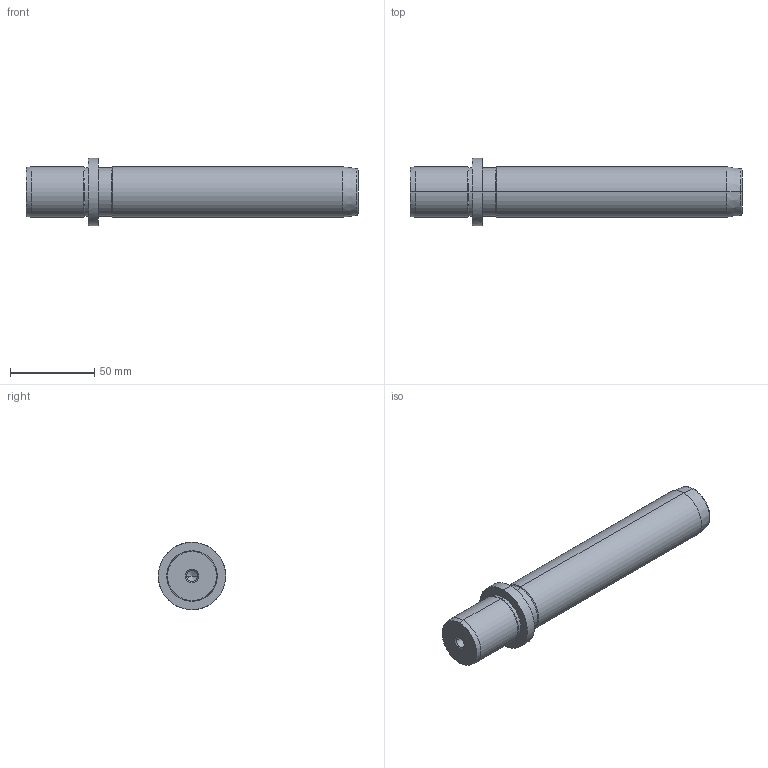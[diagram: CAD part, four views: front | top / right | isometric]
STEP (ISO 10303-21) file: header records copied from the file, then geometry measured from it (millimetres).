
FILE_DESCRIPTION(('CATIA V5 STEP Exchange'),'2;1');
FILE_NAME('C:\Users\Utente\Desktop\IO LAVORO\3D X SITO CF\X SITO\718\718-30x160.stp','2021-01-02T13:15:55+00:00',('none'),('none'),'CATIA Version 5 Release 20 GA (IN-10)','CATIA V5 STEP AP203','none');
FILE_SCHEMA(('CONFIG_CONTROL_DESIGN'));
Length unit declared in the file: millimetre
Products named in the file (1): 718-30x160
Bounding box: 197 x 40 x 40 mm (x, y, z)
Volume: 139740.8 mm3; surface area: 22147.8 mm2
Topology: 1 solids, 1 shells, 36 faces, 100 edges, 66 vertices
Faces by surface type: cone 16, cylinder 14, plane 4, torus 2
Entity records: 1291 total; most frequent: CARTESIAN_POINT 362, ORIENTED_EDGE 192, DIRECTION 157, EDGE_CURVE 96, AXIS2_PLACEMENT_3D 92, VERTEX_POINT 66, CIRCLE 55, EDGE_LOOP 40
